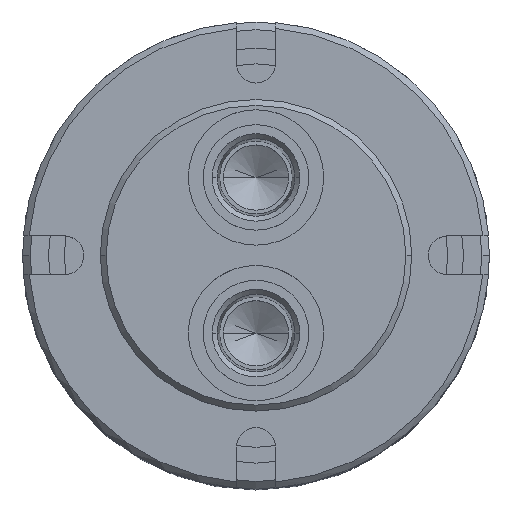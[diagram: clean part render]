
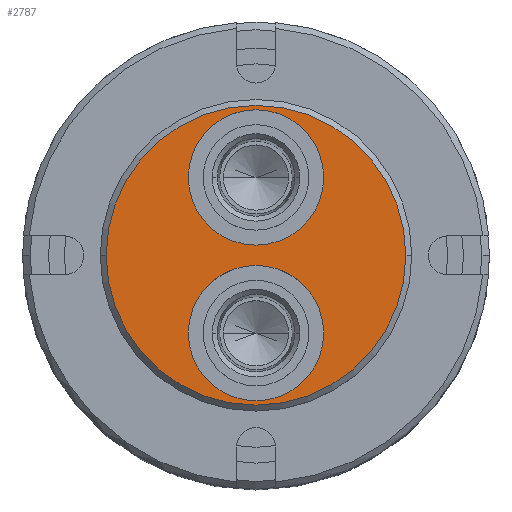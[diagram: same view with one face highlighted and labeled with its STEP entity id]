
A CAD part, top view. The second image highlights one B-rep face of the part: STEP entity #2787.
In plain terms, the highlighted planar face has unit normal (0, 0, 1).
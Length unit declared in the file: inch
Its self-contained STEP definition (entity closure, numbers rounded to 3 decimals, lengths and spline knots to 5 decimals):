
#317 = CARTESIAN_POINT ( 'NONE',  ( 0., -0.406, 0. ) ) ;
#318 = DIRECTION ( 'NONE',  ( 0., 0., 1. ) ) ;
#319 = DIRECTION ( 'NONE',  ( -1., 0., 0. ) ) ;
#367 = FACE_BOUND ( 'NONE', #2385, .T. ) ;
#368 = FACE_OUTER_BOUND ( 'NONE', #2388, .T. ) ;
#369 = FACE_BOUND ( 'NONE', #2400, .T. ) ;
#370 = PLANE ( 'NONE',  #1692 ) ;
#374 = CARTESIAN_POINT ( 'NONE',  ( 0., 0., 0. ) ) ;
#375 = DIRECTION ( 'NONE',  ( 0., 0., -1. ) ) ;
#376 = DIRECTION ( 'NONE',  ( -1., 0., 0. ) ) ;
#829 = CARTESIAN_POINT ( 'NONE',  ( 0., -0.406, 0. ) ) ;
#830 = DIRECTION ( 'NONE',  ( 0., 0., 1. ) ) ;
#831 = DIRECTION ( 'NONE',  ( -1., 0., 0. ) ) ;
#934 = CARTESIAN_POINT ( 'NONE',  ( 0., 0., 0. ) ) ;
#935 = DIRECTION ( 'NONE',  ( 0., 0., 1. ) ) ;
#936 = DIRECTION ( 'NONE',  ( -1., 0., 0. ) ) ;
#1064 = CARTESIAN_POINT ( 'NONE',  ( 0., 0., 0. ) ) ;
#1065 = DIRECTION ( 'NONE',  ( 0., 0., 1. ) ) ;
#1066 = DIRECTION ( 'NONE',  ( -1., 0., 0. ) ) ;
#1381 = CARTESIAN_POINT ( 'NONE',  ( -0.353, -0.406, 0. ) ) ;
#1390 = CARTESIAN_POINT ( 'NONE',  ( 0.353, -0.406, 0. ) ) ;
#1417 = CARTESIAN_POINT ( 'NONE',  ( -0.353, 0.406, 0. ) ) ;
#1434 = CARTESIAN_POINT ( 'NONE',  ( -0.7815, 0., 0. ) ) ;
#1436 = CARTESIAN_POINT ( 'NONE',  ( 0.7815, 0., 0. ) ) ;
#1460 = CARTESIAN_POINT ( 'NONE',  ( 0.353, 0.406, 0. ) ) ;
#1514 = CIRCLE ( 'NONE', #2087, 0.353 ) ;
#1692 = AXIS2_PLACEMENT_3D ( 'NONE', #374, #375, #376 ) ;
#1823 = AXIS2_PLACEMENT_3D ( 'NONE', #317, #318, #319 ) ;
#1980 = AXIS2_PLACEMENT_3D ( 'NONE', #5059, #5060, #5061 ) ;
#2016 = CIRCLE ( 'NONE', #1823, 0.353 ) ;
#2076 = CIRCLE ( 'NONE', #1980, 0.353 ) ;
#2087 = AXIS2_PLACEMENT_3D ( 'NONE', #3244, #3245, #3246 ) ;
#2184 = CIRCLE ( 'NONE', #2291, 0.353 ) ;
#2192 = CIRCLE ( 'NONE', #2266, 0.7815 ) ;
#2264 = AXIS2_PLACEMENT_3D ( 'NONE', #934, #935, #936 ) ;
#2266 = AXIS2_PLACEMENT_3D ( 'NONE', #1064, #1065, #1066 ) ;
#2267 = CIRCLE ( 'NONE', #2264, 0.7815 ) ;
#2291 = AXIS2_PLACEMENT_3D ( 'NONE', #829, #830, #831 ) ;
#2385 = EDGE_LOOP ( 'NONE', ( #4332, #4333 ) ) ;
#2388 = EDGE_LOOP ( 'NONE', ( #4334, #4335 ) ) ;
#2400 = EDGE_LOOP ( 'NONE', ( #4330, #4331 ) ) ;
#2497 = EDGE_CURVE ( 'NONE', #4820, #4863, #2076, .T. ) ;
#2572 = EDGE_CURVE ( 'NONE', #4863, #4820, #1514, .T. ) ;
#2776 = EDGE_CURVE ( 'NONE', #4784, #4793, #2016, .T. ) ;
#2787 = ADVANCED_FACE ( 'NONE', ( #369, #367, #368 ), #370, .F. ) ;
#2884 = EDGE_CURVE ( 'NONE', #4793, #4784, #2184, .T. ) ;
#2901 = EDGE_CURVE ( 'NONE', #4839, #4837, #2267, .T. ) ;
#2933 = EDGE_CURVE ( 'NONE', #4837, #4839, #2192, .T. ) ;
#3244 = CARTESIAN_POINT ( 'NONE',  ( 0., 0.406, 0. ) ) ;
#3245 = DIRECTION ( 'NONE',  ( 0., 0., 1. ) ) ;
#3246 = DIRECTION ( 'NONE',  ( 1., 0., 0. ) ) ;
#4330 = ORIENTED_EDGE ( 'NONE', *, *, #2884, .F. ) ;
#4331 = ORIENTED_EDGE ( 'NONE', *, *, #2776, .F. ) ;
#4332 = ORIENTED_EDGE ( 'NONE', *, *, #2572, .F. ) ;
#4333 = ORIENTED_EDGE ( 'NONE', *, *, #2497, .F. ) ;
#4334 = ORIENTED_EDGE ( 'NONE', *, *, #2933, .T. ) ;
#4335 = ORIENTED_EDGE ( 'NONE', *, *, #2901, .T. ) ;
#4784 = VERTEX_POINT ( 'NONE', #1381 ) ;
#4793 = VERTEX_POINT ( 'NONE', #1390 ) ;
#4820 = VERTEX_POINT ( 'NONE', #1417 ) ;
#4837 = VERTEX_POINT ( 'NONE', #1434 ) ;
#4839 = VERTEX_POINT ( 'NONE', #1436 ) ;
#4863 = VERTEX_POINT ( 'NONE', #1460 ) ;
#5059 = CARTESIAN_POINT ( 'NONE',  ( 0., 0.406, 0. ) ) ;
#5060 = DIRECTION ( 'NONE',  ( 0., 0., 1. ) ) ;
#5061 = DIRECTION ( 'NONE',  ( 1., 0., 0. ) ) ;
